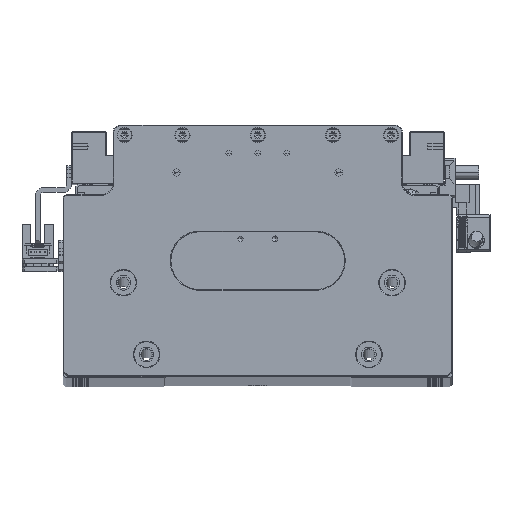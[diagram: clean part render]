
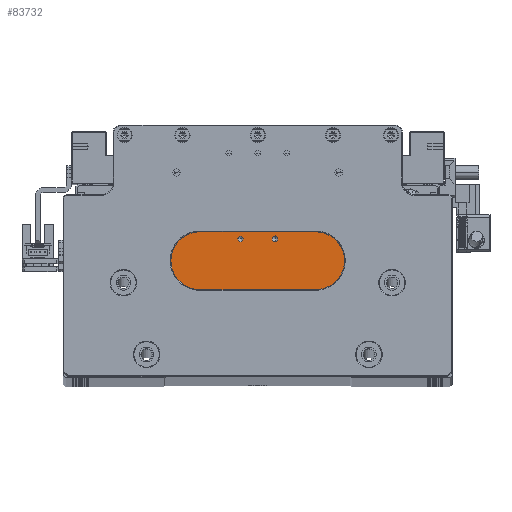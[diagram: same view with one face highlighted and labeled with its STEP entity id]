
A CAD part, top view. The second image highlights one B-rep face of the part: STEP entity #83732.
In plain terms, the highlighted planar face has unit normal (0, 0, 1).
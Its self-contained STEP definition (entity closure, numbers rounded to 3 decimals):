
#109 = DIRECTION ( 'NONE',  ( 1., 0., 0. ) ) ;
#125 = VECTOR ( 'NONE', #55697, 1000. ) ;
#1328 = ORIENTED_EDGE ( 'NONE', *, *, #18971, .T. ) ;
#2131 = ORIENTED_EDGE ( 'NONE', *, *, #77171, .F. ) ;
#3533 = LINE ( 'NONE', #5623, #22805 ) ;
#5623 = CARTESIAN_POINT ( 'NONE',  ( -33.5, 0., 125. ) ) ;
#7589 = EDGE_CURVE ( 'NONE', #45144, #109358, #101089, .T. ) ;
#9210 = DIRECTION ( 'NONE',  ( -1., 0., 0. ) ) ;
#10417 = CARTESIAN_POINT ( 'NONE',  ( 0., 0., 125. ) ) ;
#14035 = CARTESIAN_POINT ( 'NONE',  ( -45., 0., 125. ) ) ;
#18813 = EDGE_CURVE ( 'NONE', #115472, #55061, #101109, .T. ) ;
#18971 = EDGE_CURVE ( 'NONE', #31259, #84160, #114416, .T. ) ;
#20020 = CIRCLE ( 'NONE', #41110, 1.25 ) ;
#21139 = CARTESIAN_POINT ( 'NONE',  ( -8.75, -8., 125. ) ) ;
#22805 = VECTOR ( 'NONE', #62430, 1000. ) ;
#25206 = CARTESIAN_POINT ( 'NONE',  ( -33.5, 0., 125. ) ) ;
#26059 = CIRCLE ( 'NONE', #64866, 1.25 ) ;
#26735 = LINE ( 'NONE', #14035, #49043 ) ;
#28073 = CARTESIAN_POINT ( 'NONE',  ( 45., -40.2, 125. ) ) ;
#28251 = CARTESIAN_POINT ( 'NONE',  ( 0., 0., 125. ) ) ;
#29327 = VECTOR ( 'NONE', #39509, 1000. ) ;
#31259 = VERTEX_POINT ( 'NONE', #113216 ) ;
#32473 = CIRCLE ( 'NONE', #72150, 1.25 ) ;
#32584 = VERTEX_POINT ( 'NONE', #47470 ) ;
#32591 = ORIENTED_EDGE ( 'NONE', *, *, #18813, .T. ) ;
#33112 = DIRECTION ( 'NONE',  ( 0., -1., 0. ) ) ;
#33970 = DIRECTION ( 'NONE',  ( 0., 0., -1. ) ) ;
#37001 = CARTESIAN_POINT ( 'NONE',  ( -45., -8., 125. ) ) ;
#38111 = ORIENTED_EDGE ( 'NONE', *, *, #48716, .T. ) ;
#38503 = CARTESIAN_POINT ( 'NONE',  ( 0., -8., 125. ) ) ;
#39010 = PLANE ( 'NONE',  #111954 ) ;
#39509 = DIRECTION ( 'NONE',  ( 0., 1., 0. ) ) ;
#40641 = EDGE_CURVE ( 'NONE', #84160, #115472, #3533, .T. ) ;
#41110 = AXIS2_PLACEMENT_3D ( 'NONE', #99637, #42768, #109170 ) ;
#41734 = EDGE_CURVE ( 'NONE', #55061, #32584, #26735, .T. ) ;
#42768 = DIRECTION ( 'NONE',  ( 0., 0., -1. ) ) ;
#43420 = CARTESIAN_POINT ( 'NONE',  ( 45., -40.2, 125. ) ) ;
#44360 = VECTOR ( 'NONE', #114385, 1000. ) ;
#45144 = VERTEX_POINT ( 'NONE', #43420 ) ;
#45607 = VERTEX_POINT ( 'NONE', #98916 ) ;
#47387 = LINE ( 'NONE', #38503, #44360 ) ;
#47470 = CARTESIAN_POINT ( 'NONE',  ( -45., -40.2, 125. ) ) ;
#48180 = ORIENTED_EDGE ( 'NONE', *, *, #40641, .T. ) ;
#48576 = DIRECTION ( 'NONE',  ( 1., 0., 0. ) ) ;
#48716 = EDGE_CURVE ( 'NONE', #80549, #60212, #68568, .T. ) ;
#49043 = VECTOR ( 'NONE', #33112, 1000. ) ;
#49077 = CARTESIAN_POINT ( 'NONE',  ( 33.5, 0., 125. ) ) ;
#49711 = CARTESIAN_POINT ( 'NONE',  ( -6.25, -8., 125. ) ) ;
#51247 = CARTESIAN_POINT ( 'NONE',  ( -7.5, -8., 125. ) ) ;
#54843 = CARTESIAN_POINT ( 'NONE',  ( 0., -8., 125. ) ) ;
#54875 = ORIENTED_EDGE ( 'NONE', *, *, #75729, .T. ) ;
#55061 = VERTEX_POINT ( 'NONE', #37001 ) ;
#55697 = DIRECTION ( 'NONE',  ( 0., 1., 0. ) ) ;
#56580 = ORIENTED_EDGE ( 'NONE', *, *, #120383, .T. ) ;
#56581 = CARTESIAN_POINT ( 'NONE',  ( -33.5, -8., 125. ) ) ;
#56981 = DIRECTION ( 'NONE',  ( 0., 0., -1. ) ) ;
#59873 = EDGE_LOOP ( 'NONE', ( #38111, #56580 ) ) ;
#60212 = VERTEX_POINT ( 'NONE', #104028 ) ;
#60625 = EDGE_CURVE ( 'NONE', #45607, #31259, #79804, .T. ) ;
#60715 = ORIENTED_EDGE ( 'NONE', *, *, #93548, .T. ) ;
#60771 = DIRECTION ( 'NONE',  ( 1., 0., 0. ) ) ;
#62430 = DIRECTION ( 'NONE',  ( 0., -1., 0. ) ) ;
#62739 = FACE_BOUND ( 'NONE', #106671, .T. ) ;
#63588 = VERTEX_POINT ( 'NONE', #49711 ) ;
#64866 = AXIS2_PLACEMENT_3D ( 'NONE', #51247, #117589, #60771 ) ;
#65198 = CARTESIAN_POINT ( 'NONE',  ( 45., 0., 125. ) ) ;
#68568 = CIRCLE ( 'NONE', #122082, 1.25 ) ;
#72150 = AXIS2_PLACEMENT_3D ( 'NONE', #113749, #56981, #109 ) ;
#75296 = CARTESIAN_POINT ( 'NONE',  ( 8.75, -8., 125. ) ) ;
#75729 = EDGE_CURVE ( 'NONE', #109358, #45607, #47387, .T. ) ;
#76625 = VERTEX_POINT ( 'NONE', #21139 ) ;
#77171 = EDGE_CURVE ( 'NONE', #45144, #32584, #90095, .T. ) ;
#78018 = ORIENTED_EDGE ( 'NONE', *, *, #41734, .T. ) ;
#79804 = LINE ( 'NONE', #49077, #29327 ) ;
#80549 = VERTEX_POINT ( 'NONE', #75296 ) ;
#82078 = FACE_OUTER_BOUND ( 'NONE', #85462, .T. ) ;
#83142 = CARTESIAN_POINT ( 'NONE',  ( 45., -8., 125. ) ) ;
#83732 = ADVANCED_FACE ( 'NONE', ( #82078, #85061, #62739 ), #39010, .T. ) ;
#84160 = VERTEX_POINT ( 'NONE', #25206 ) ;
#85061 = FACE_BOUND ( 'NONE', #59873, .T. ) ;
#85462 = EDGE_LOOP ( 'NONE', ( #32591, #78018, #2131, #103720, #54875, #109057, #1328, #48180 ) ) ;
#90095 = LINE ( 'NONE', #28073, #109365 ) ;
#90851 = CARTESIAN_POINT ( 'NONE',  ( 7.5, -8., 125. ) ) ;
#92802 = EDGE_CURVE ( 'NONE', #76625, #63588, #26059, .T. ) ;
#93548 = EDGE_CURVE ( 'NONE', #63588, #76625, #20020, .T. ) ;
#94006 = ORIENTED_EDGE ( 'NONE', *, *, #92802, .T. ) ;
#98121 = VECTOR ( 'NONE', #111636, 1000. ) ;
#98916 = CARTESIAN_POINT ( 'NONE',  ( 33.5, -8., 125. ) ) ;
#99637 = CARTESIAN_POINT ( 'NONE',  ( -7.5, -8., 125. ) ) ;
#100376 = DIRECTION ( 'NONE',  ( 1., 0., 0. ) ) ;
#101089 = LINE ( 'NONE', #65198, #125 ) ;
#101109 = LINE ( 'NONE', #54843, #98121 ) ;
#103720 = ORIENTED_EDGE ( 'NONE', *, *, #7589, .T. ) ;
#104028 = CARTESIAN_POINT ( 'NONE',  ( 6.25, -8., 125. ) ) ;
#104042 = DIRECTION ( 'NONE',  ( -1., 0., 0. ) ) ;
#105421 = DIRECTION ( 'NONE',  ( 0., 0., 1. ) ) ;
#106671 = EDGE_LOOP ( 'NONE', ( #60715, #94006 ) ) ;
#108477 = VECTOR ( 'NONE', #9210, 1000. ) ;
#109057 = ORIENTED_EDGE ( 'NONE', *, *, #60625, .T. ) ;
#109170 = DIRECTION ( 'NONE',  ( 1., 0., 0. ) ) ;
#109358 = VERTEX_POINT ( 'NONE', #83142 ) ;
#109365 = VECTOR ( 'NONE', #104042, 1000. ) ;
#111636 = DIRECTION ( 'NONE',  ( -1., 0., 0. ) ) ;
#111954 = AXIS2_PLACEMENT_3D ( 'NONE', #10417, #105421, #48576 ) ;
#113216 = CARTESIAN_POINT ( 'NONE',  ( 33.5, 0., 125. ) ) ;
#113749 = CARTESIAN_POINT ( 'NONE',  ( 7.5, -8., 125. ) ) ;
#114385 = DIRECTION ( 'NONE',  ( -1., 0., 0. ) ) ;
#114416 = LINE ( 'NONE', #28251, #108477 ) ;
#115472 = VERTEX_POINT ( 'NONE', #56581 ) ;
#117589 = DIRECTION ( 'NONE',  ( 0., 0., -1. ) ) ;
#120383 = EDGE_CURVE ( 'NONE', #60212, #80549, #32473, .T. ) ;
#122082 = AXIS2_PLACEMENT_3D ( 'NONE', #90851, #33970, #100376 ) ;
